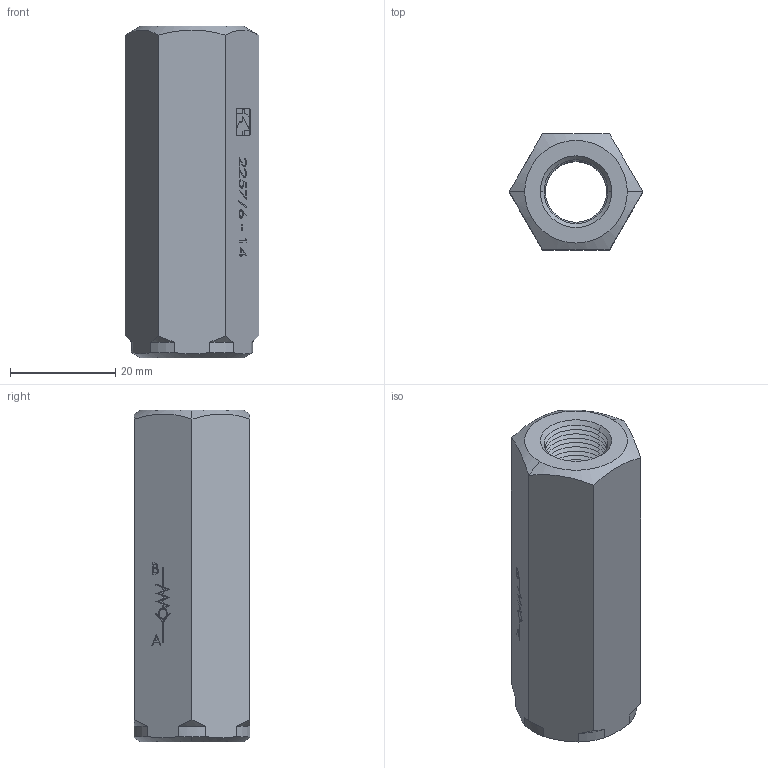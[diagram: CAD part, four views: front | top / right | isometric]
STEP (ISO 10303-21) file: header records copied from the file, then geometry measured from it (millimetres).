
FILE_DESCRIPTION (( 'STEP AP214' ), '1' );
FILE_NAME ('2257-6-14.STEP', '2015-04-08T20:25:05', ( '' ), ( '' ), 'SwSTEP 2.0', 'SolidWorks 2014', '' );
FILE_SCHEMA (( 'AUTOMOTIVE_DESIGN' ));
Length unit declared in the file: millimetre
Products named in the file (1): 2257-6-14
Bounding box: 25.4 x 22 x 63 mm (x, y, z)
Surface area: 6247.1 mm2 (no closed solid volume)
Topology: 0 solids, 9 shells, 289 faces, 798 edges, 517 vertices
Faces by surface type: plane 165, cone 71, bspline 34, cylinder 19
Entity records: 14425 total; most frequent: CARTESIAN_POINT 4119, ORIENTED_EDGE 1476, DIRECTION 1335, EDGE_CURVE 798, LINE 573, VECTOR 573, VERTEX_POINT 517, AXIS2_PLACEMENT_3D 381
